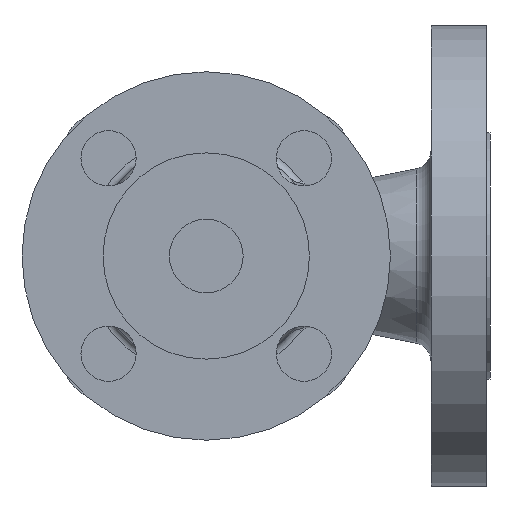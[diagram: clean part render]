
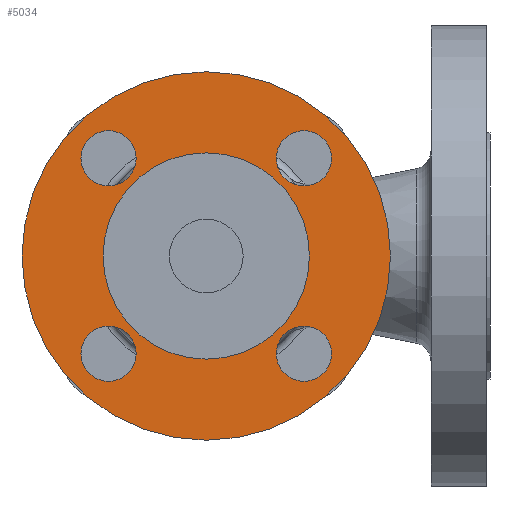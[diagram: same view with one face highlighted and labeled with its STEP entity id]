
A CAD part, front view. The second image highlights one B-rep face of the part: STEP entity #5034.
In plain terms, the highlighted planar face has unit normal (0, -1, 0).
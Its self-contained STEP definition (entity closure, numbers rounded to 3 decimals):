
#62 = FACE_BOUND ( 'NONE', #3459, .T. ) ;
#72 = DIRECTION ( 'NONE',  ( -1., 0., 0. ) ) ;
#74 = CARTESIAN_POINT ( 'NONE',  ( 0., -73., 50. ) ) ;
#91 = FACE_OUTER_BOUND ( 'NONE', #2274, .T. ) ;
#105 = EDGE_CURVE ( 'NONE', #1602, #3096, #3562, .T. ) ;
#153 = CARTESIAN_POINT ( 'NONE',  ( -28., -73., 0. ) ) ;
#155 = DIRECTION ( 'NONE',  ( 0., 0., 1. ) ) ;
#156 = CIRCLE ( 'NONE', #2710, 7.5 ) ;
#213 = ORIENTED_EDGE ( 'NONE', *, *, #2104, .F. ) ;
#285 = CIRCLE ( 'NONE', #378, 7.5 ) ;
#359 = DIRECTION ( 'NONE',  ( 0., 0., 1. ) ) ;
#378 = AXIS2_PLACEMENT_3D ( 'NONE', #3547, #1006, #155 ) ;
#555 = VERTEX_POINT ( 'NONE', #620 ) ;
#561 = CIRCLE ( 'NONE', #3648, 28. ) ;
#620 = CARTESIAN_POINT ( 'NONE',  ( 26.517, -73., 34.017 ) ) ;
#648 = CARTESIAN_POINT ( 'NONE',  ( 26.517, -73., -19.017 ) ) ;
#675 = EDGE_CURVE ( 'NONE', #3752, #1319, #285, .T. ) ;
#724 = CARTESIAN_POINT ( 'NONE',  ( 26.517, -73., -34.017 ) ) ;
#737 = EDGE_LOOP ( 'NONE', ( #3169, #1601 ) ) ;
#738 = AXIS2_PLACEMENT_3D ( 'NONE', #1389, #1443, #3911 ) ;
#744 = CARTESIAN_POINT ( 'NONE',  ( 26.517, -73., -26.517 ) ) ;
#786 = VERTEX_POINT ( 'NONE', #999 ) ;
#795 = AXIS2_PLACEMENT_3D ( 'NONE', #2293, #933, #1375 ) ;
#835 = DIRECTION ( 'NONE',  ( 0., 0., -1. ) ) ;
#933 = DIRECTION ( 'NONE',  ( 0., 1., 0. ) ) ;
#968 = DIRECTION ( 'NONE',  ( 0., 0., 1. ) ) ;
#983 = ORIENTED_EDGE ( 'NONE', *, *, #2466, .F. ) ;
#999 = CARTESIAN_POINT ( 'NONE',  ( -26.517, -73., -34.017 ) ) ;
#1006 = DIRECTION ( 'NONE',  ( 0., -1., 0. ) ) ;
#1007 = CIRCLE ( 'NONE', #2153, 7.5 ) ;
#1055 = DIRECTION ( 'NONE',  ( 0., 0., 1. ) ) ;
#1146 = EDGE_LOOP ( 'NONE', ( #4310, #4982 ) ) ;
#1176 = CIRCLE ( 'NONE', #738, 7.5 ) ;
#1233 = VERTEX_POINT ( 'NONE', #2171 ) ;
#1319 = VERTEX_POINT ( 'NONE', #648 ) ;
#1349 = DIRECTION ( 'NONE',  ( -1., 0., 0. ) ) ;
#1374 = CARTESIAN_POINT ( 'NONE',  ( 26.517, -73., 26.517 ) ) ;
#1375 = DIRECTION ( 'NONE',  ( 0., 0., 1. ) ) ;
#1382 = CARTESIAN_POINT ( 'NONE',  ( 26.517, -73., 26.517 ) ) ;
#1389 = CARTESIAN_POINT ( 'NONE',  ( -26.517, -73., -26.517 ) ) ;
#1443 = DIRECTION ( 'NONE',  ( 0., -1., 0. ) ) ;
#1475 = CARTESIAN_POINT ( 'NONE',  ( 0., -73., 0. ) ) ;
#1486 = EDGE_CURVE ( 'NONE', #3594, #3239, #1007, .T. ) ;
#1523 = ORIENTED_EDGE ( 'NONE', *, *, #5446, .F. ) ;
#1588 = EDGE_CURVE ( 'NONE', #3023, #786, #1176, .T. ) ;
#1601 = ORIENTED_EDGE ( 'NONE', *, *, #1486, .F. ) ;
#1602 = VERTEX_POINT ( 'NONE', #3085 ) ;
#1671 = CARTESIAN_POINT ( 'NONE',  ( 0., -73., -28. ) ) ;
#1687 = CARTESIAN_POINT ( 'NONE',  ( 26.517, -73., 19.017 ) ) ;
#1705 = CIRCLE ( 'NONE', #3470, 7.5 ) ;
#1760 = ORIENTED_EDGE ( 'NONE', *, *, #1780, .F. ) ;
#1780 = EDGE_CURVE ( 'NONE', #786, #3023, #3383, .T. ) ;
#1797 = DIRECTION ( 'NONE',  ( 0., 1., 0. ) ) ;
#1842 = DIRECTION ( 'NONE',  ( 0., -1., 0. ) ) ;
#1950 = VERTEX_POINT ( 'NONE', #1687 ) ;
#1962 = DIRECTION ( 'NONE',  ( 1., 0., 0. ) ) ;
#2056 = EDGE_CURVE ( 'NONE', #1233, #4833, #561, .T. ) ;
#2104 = EDGE_CURVE ( 'NONE', #1950, #555, #5083, .T. ) ;
#2120 = CIRCLE ( 'NONE', #795, 50. ) ;
#2153 = AXIS2_PLACEMENT_3D ( 'NONE', #5058, #3330, #4223 ) ;
#2171 = CARTESIAN_POINT ( 'NONE',  ( 0., -73., 28. ) ) ;
#2247 = CARTESIAN_POINT ( 'NONE',  ( 0., -73., 0. ) ) ;
#2256 = FACE_BOUND ( 'NONE', #5237, .T. ) ;
#2273 = ORIENTED_EDGE ( 'NONE', *, *, #105, .F. ) ;
#2274 = EDGE_LOOP ( 'NONE', ( #1523, #2273 ) ) ;
#2277 = DIRECTION ( 'NONE',  ( 0., -1., 0. ) ) ;
#2293 = CARTESIAN_POINT ( 'NONE',  ( 0., -73., 0. ) ) ;
#2466 = EDGE_CURVE ( 'NONE', #555, #1950, #1705, .T. ) ;
#2608 = CARTESIAN_POINT ( 'NONE',  ( -26.517, -73., 34.017 ) ) ;
#2630 = AXIS2_PLACEMENT_3D ( 'NONE', #153, #1842, #3650 ) ;
#2674 = AXIS2_PLACEMENT_3D ( 'NONE', #3657, #2772, #1962 ) ;
#2710 = AXIS2_PLACEMENT_3D ( 'NONE', #5499, #3326, #835 ) ;
#2772 = DIRECTION ( 'NONE',  ( 0., -1., 0. ) ) ;
#2799 = EDGE_LOOP ( 'NONE', ( #1760, #4148 ) ) ;
#2951 = AXIS2_PLACEMENT_3D ( 'NONE', #1382, #2277, #1349 ) ;
#2982 = CIRCLE ( 'NONE', #4036, 7.5 ) ;
#3023 = VERTEX_POINT ( 'NONE', #3345 ) ;
#3079 = DIRECTION ( 'NONE',  ( 0., 1., 0. ) ) ;
#3085 = CARTESIAN_POINT ( 'NONE',  ( 0., -73., -50. ) ) ;
#3096 = VERTEX_POINT ( 'NONE', #74 ) ;
#3169 = ORIENTED_EDGE ( 'NONE', *, *, #4445, .F. ) ;
#3172 = DIRECTION ( 'NONE',  ( 0., 1., 0. ) ) ;
#3216 = AXIS2_PLACEMENT_3D ( 'NONE', #2247, #3079, #968 ) ;
#3239 = VERTEX_POINT ( 'NONE', #5318 ) ;
#3326 = DIRECTION ( 'NONE',  ( 0., -1., 0. ) ) ;
#3330 = DIRECTION ( 'NONE',  ( 0., -1., 0. ) ) ;
#3333 = CIRCLE ( 'NONE', #5214, 28. ) ;
#3345 = CARTESIAN_POINT ( 'NONE',  ( -26.517, -73., -19.017 ) ) ;
#3383 = CIRCLE ( 'NONE', #2674, 7.5 ) ;
#3406 = CARTESIAN_POINT ( 'NONE',  ( 0., -73., 0. ) ) ;
#3459 = EDGE_LOOP ( 'NONE', ( #4926, #4630 ) ) ;
#3470 = AXIS2_PLACEMENT_3D ( 'NONE', #1374, #4683, #72 ) ;
#3547 = CARTESIAN_POINT ( 'NONE',  ( 26.517, -73., -26.517 ) ) ;
#3562 = CIRCLE ( 'NONE', #3216, 50. ) ;
#3594 = VERTEX_POINT ( 'NONE', #2608 ) ;
#3648 = AXIS2_PLACEMENT_3D ( 'NONE', #3406, #1797, #5164 ) ;
#3650 = DIRECTION ( 'NONE',  ( 0., 0., -1. ) ) ;
#3657 = CARTESIAN_POINT ( 'NONE',  ( -26.517, -73., -26.517 ) ) ;
#3752 = VERTEX_POINT ( 'NONE', #724 ) ;
#3855 = FACE_BOUND ( 'NONE', #2799, .T. ) ;
#3885 = FACE_BOUND ( 'NONE', #737, .T. ) ;
#3911 = DIRECTION ( 'NONE',  ( 1., 0., 0. ) ) ;
#4036 = AXIS2_PLACEMENT_3D ( 'NONE', #744, #5494, #359 ) ;
#4142 = EDGE_CURVE ( 'NONE', #1319, #3752, #2982, .T. ) ;
#4148 = ORIENTED_EDGE ( 'NONE', *, *, #1588, .F. ) ;
#4223 = DIRECTION ( 'NONE',  ( 0., 0., -1. ) ) ;
#4310 = ORIENTED_EDGE ( 'NONE', *, *, #675, .F. ) ;
#4445 = EDGE_CURVE ( 'NONE', #3239, #3594, #156, .T. ) ;
#4630 = ORIENTED_EDGE ( 'NONE', *, *, #4777, .T. ) ;
#4683 = DIRECTION ( 'NONE',  ( 0., -1., 0. ) ) ;
#4753 = PLANE ( 'NONE',  #2630 ) ;
#4777 = EDGE_CURVE ( 'NONE', #4833, #1233, #3333, .T. ) ;
#4833 = VERTEX_POINT ( 'NONE', #1671 ) ;
#4926 = ORIENTED_EDGE ( 'NONE', *, *, #2056, .T. ) ;
#4982 = ORIENTED_EDGE ( 'NONE', *, *, #4142, .F. ) ;
#5034 = ADVANCED_FACE ( 'NONE', ( #2256, #5122, #3855, #3885, #62, #91 ), #4753, .T. ) ;
#5058 = CARTESIAN_POINT ( 'NONE',  ( -26.517, -73., 26.517 ) ) ;
#5083 = CIRCLE ( 'NONE', #2951, 7.5 ) ;
#5122 = FACE_BOUND ( 'NONE', #1146, .T. ) ;
#5164 = DIRECTION ( 'NONE',  ( 0., 0., 1. ) ) ;
#5214 = AXIS2_PLACEMENT_3D ( 'NONE', #1475, #3172, #1055 ) ;
#5237 = EDGE_LOOP ( 'NONE', ( #213, #983 ) ) ;
#5318 = CARTESIAN_POINT ( 'NONE',  ( -26.517, -73., 19.017 ) ) ;
#5446 = EDGE_CURVE ( 'NONE', #3096, #1602, #2120, .T. ) ;
#5494 = DIRECTION ( 'NONE',  ( 0., -1., 0. ) ) ;
#5499 = CARTESIAN_POINT ( 'NONE',  ( -26.517, -73., 26.517 ) ) ;
